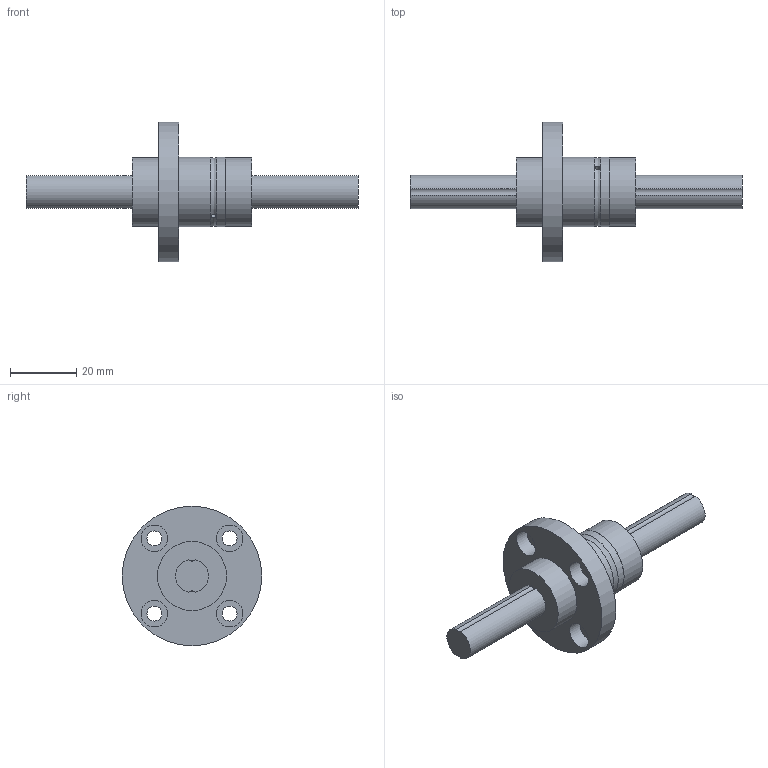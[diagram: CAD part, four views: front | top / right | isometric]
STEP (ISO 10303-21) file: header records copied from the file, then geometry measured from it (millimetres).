
FILE_DESCRIPTION((''),'2;1');
FILE_NAME('C:\Documents and Settings\土屋\My Documents\土屋移動用フォルダ\製品 (図面)\カタログ用3D\ボールスプライン\BSPF\BSPF10.stp','2015-02-23T13:30:55',('y'),(''),'Autodesk Inventor 11','Autodesk Inventor 11','');
FILE_SCHEMA(('AUTOMOTIVE_DESIGN { 1 0 10303 214 1 1 1 1 }'));
Length unit declared in the file: millimetre
Products named in the file (3): BSPF10; BSP10軸; BSPF10ナット
Assembly tree (2 placements, depth 2):
  BSPF10
    BSP10軸
    BSPF10ナット
Bounding box: 100 x 42 x 42 mm (x, y, z)
Volume: 22519 mm3; surface area: 10308.3 mm2
Topology: 2 solids, 2 shells, 37 faces, 76 edges, 52 vertices
Faces by surface type: bspline 15, cylinder 14, plane 8
Full cylindrical faces by diameter (mm): 1.5 x1, 20.8 x2, 21 x2, 42 x1
Entity records: 1233 total; most frequent: CARTESIAN_POINT 466, DIRECTION 150, ORIENTED_EDGE 108, EDGE_LOOP 72, AXIS2_PLACEMENT_3D 71, EDGE_CURVE 54, VERTEX_POINT 46, CIRCLE 44
